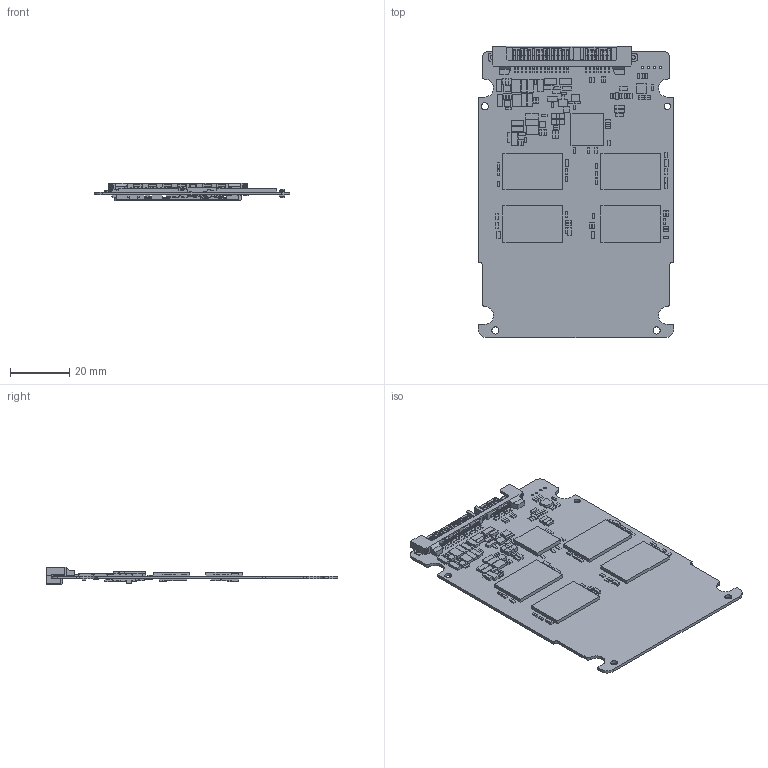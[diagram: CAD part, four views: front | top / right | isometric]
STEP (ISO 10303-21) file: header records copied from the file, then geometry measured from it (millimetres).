
FILE_DESCRIPTION((''),'2;1');
FILE_NAME('2023109FF424401N_3D_ASM','2017-05-02T',('wh_lin'),(''),'PRO/ENGINEER BY PARAMETRIC TECHNOLOGY CORPORATION, 2011180','PRO/ENGINEER BY PARAMETRIC TECHNOLOGY CORPORATION, 2011180','');
FILE_SCHEMA(('CONFIG_CONTROL_DESIGN'));
Products named in the file (27): XTAL4P_2016; SOD_323F; SOD523_323; LED0603; R_0603_KINGSTON; R1206S_SHORTPAD; R_0402_KINGSTON; R0805S_SHORTPAD; DSBGA6P_0P9X1P4_0P5; PS3109_TFBGA256_11X11_0P65; C1206S; C0805; C0805S; C_0603_KINGSTON; C_0402_KINGSTON; 8P4R_0402; TSSOP8_3X3_0P65; S5851A_SNT6; L_WQPC2S14_2R2_S; TSOP48P_12X18P4_14X18P4_0P5_01; L_0603_KINGSTON; SOT-23_GSD; WDFN_6L_2X2; PHS2503-PCBA; SA10P22E1M1_CUS; PHS2503-PCBA_ASM; 2023109FF424401N_3D_ASM
Assembly tree (244 placements, depth 3):
  2023109FF424401N_3D_ASM
    XTAL4P_2016
    SOD_323F
    SOD523_323  x5
    LED0603  x2
    R_0603_KINGSTON  x2
    R1206S_SHORTPAD  x2
    R_0402_KINGSTON  x74
    R0805S_SHORTPAD  x4
    DSBGA6P_0P9X1P4_0P5
    PS3109_TFBGA256_11X11_0P65
    C1206S  x2
    C0805  x13
    C0805S
    C_0603_KINGSTON  x16
    C_0402_KINGSTON  x101
    8P4R_0402
    TSSOP8_3X3_0P65
    S5851A_SNT6
    L_WQPC2S14_2R2_S  x3
    TSOP48P_12X18P4_14X18P4_0P5_01  x4
    L_0603_KINGSTON
    SOT-23_GSD
    WDFN_6L_2X2  x3
    PHS2503-PCBA_ASM
      PHS2503-PCBA
      SA10P22E1M1_CUS
Bounding box: 66 x 98.25 x 5.78 mm (x, y, z)
Volume: 8574.7 mm3; surface area: 19519.8 mm2
Topology: 243 solids, 244 shells, 3670 faces, 9583 edges, 6335 vertices
Faces by surface type: plane 3156, cylinder 510, cone 4
Entity records: 80487 total; most frequent: CARTESIAN_POINT 14576, ORIENTED_EDGE 13934, DIRECTION 13018, EDGE_CURVE 6967, VECTOR 5942, LINE 5942, VERTEX_POINT 4591, AXIS2_PLACEMENT_3D 3538
